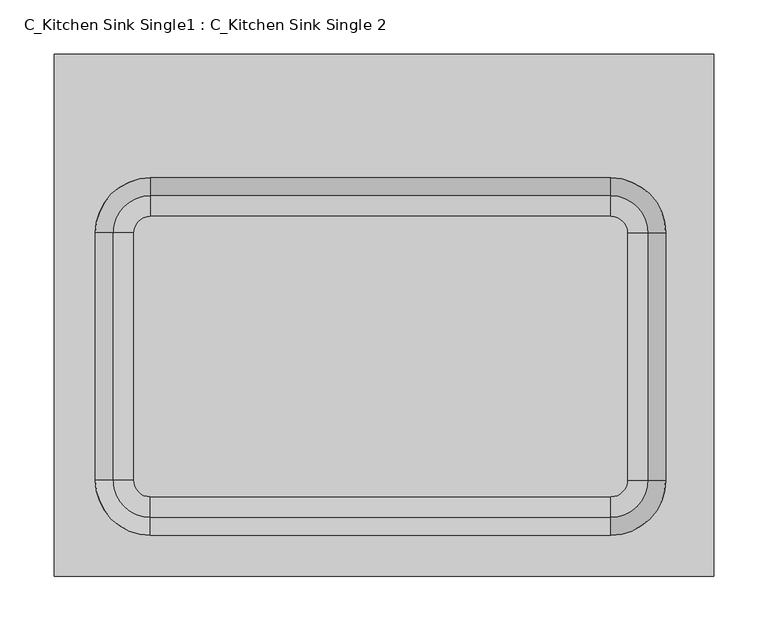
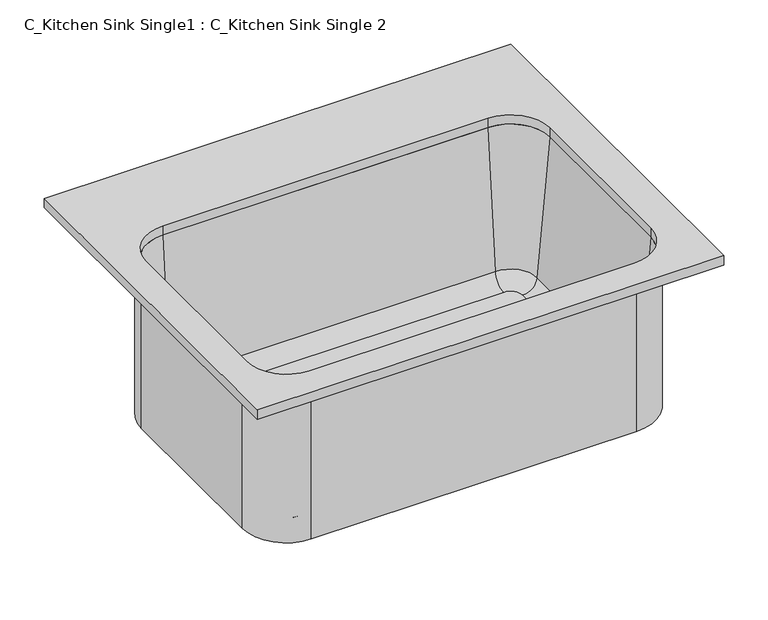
"""IFC4 building model written with IfcOpenShell, lengths in millimetres: flow terminal geometry, C_Kitchen Sink Single1 : C_Kitchen Sink Single 2."""

from ifc_helpers import new_model, si_unit, point, frame, frame_2d, origin, origin_with_axes, place, context, project, spatial, polyline, circle_curve, ellipse_curve, trimmed, segment, composite_curve, outline, extrude, source, transform, mapped, element, save
from ifc_brep_helpers import plane_surface, cylinder_surface, revolved_surface, advanced_brep


def c_kitchen_sink_single1_c_kitchen_sink_single_2_c5aafde7(model_context):
    return source(origin(), model_context, "Body", "SolidModel", [
        advanced_brep(
        [(24.6276588, 78.5454011, -206.375), (9.3392406, 93.8338193, -206.375), (-416.1107594, 93.8338193, -206.375), (-431.3991776, 78.5454011, -206.375), (-431.3991776, -150.0545989, -206.375), (-416.1107594, -165.3430171, -206.375), (9.3392406, -165.3430171, -206.375), (24.6276588, -150.0545989, -206.375), (-473.2607594, 78.5454011, -215.9), (-416.1107594, 135.6954011, -215.9), (9.3392406, 135.6954011, -215.9), (66.4892406, 78.5454011, -215.9), (66.4892406, -150.0545989, -215.9), (9.3392406, -207.2045989, -215.9), (-416.1107594, -207.2045989, -215.9), (-473.2607594, -150.0545989, -215.9), (9.3392406, 135.6954011, 0.0), (66.4892406, 78.5454011, 0.0), (43.6051678, 78.5454011, -188.9853169), (9.3392406, 112.8113283, -188.9853169), (60.1392406, 78.5454011, 0.0), (9.3392406, 129.3454011, 0.0), (66.4892406, -150.0545989, 0.0), (43.6051678, -150.0545989, -188.9853169), (60.1392406, -150.0545989, 0.0), (9.3392406, -207.2045989, 0.0), (9.3392406, -184.3205261, -188.9853169), (9.3392406, -200.8545989, 0.0), (-416.1107594, -207.2045989, 0.0), (-416.1107594, -184.3205261, -188.9853169), (-416.1107594, -200.8545989, 0.0), (-473.2607594, -150.0545989, 0.0), (-450.3766866, -150.0545989, -188.9853169), (-466.9107594, -150.0545989, 0.0), (-473.2607594, 78.5454011, 0.0), (-450.3766866, 78.5454011, -188.9853169), (-466.9107594, 78.5454011, 0.0), (-416.1107594, 135.6954011, 0.0), (-416.1107594, 112.8113283, -188.9853169), (-416.1107594, 129.3454011, 0.0)],
        [
            (0, 1, circle_curve(frame((9.3392406, 78.5454011, -206.375), z_axis=(0.0, 0.0, 1.0), x_axis=(0.0, 1.0, 0.0)), 15.2884182)),
            (1, 2),
            (2, 3, circle_curve(frame((-416.1107594, 78.5454011, -206.375), z_axis=(0.0, 0.0, 1.0), x_axis=(-1.0, 0.0, 0.0)), 15.2884182)),
            (3, 4),
            (4, 5, circle_curve(frame((-416.1107594, -150.0545989, -206.375), z_axis=(0.0, 0.0, 1.0), x_axis=(0.0, -1.0, 0.0)), 15.2884182)),
            (5, 6),
            (6, 7, circle_curve(frame((9.3392406, -150.0545989, -206.375), z_axis=(0.0, 0.0, 1.0), x_axis=(1.0, 0.0, 0.0)), 15.2884182)),
            (7, 0),
            (8, 9, circle_curve(frame((-416.1107594, 78.5454011, -215.9), z_axis=(0.0, 0.0, -1.0), x_axis=(-1.0, 0.0, 0.0)), 57.15)),
            (9, 10),
            (10, 11, circle_curve(frame((9.3392406, 78.5454011, -215.9), z_axis=(0.0, 0.0, -1.0), x_axis=(0.0, 1.0, 0.0)), 57.15)),
            (11, 12),
            (12, 13, circle_curve(frame((9.3392406, -150.0545989, -215.9), z_axis=(0.0, 0.0, -1.0), x_axis=(1.0, 0.0, 0.0)), 57.15)),
            (13, 14),
            (14, 15, circle_curve(frame((-416.1107594, -150.0545989, -215.9), z_axis=(0.0, 0.0, -1.0), x_axis=(0.0, -1.0, 0.0)), 57.15)),
            (15, 8),
            (10, 16),
            (16, 17, circle_curve(frame((9.3392406, 78.5454011, 0.0), z_axis=(0.0, 0.0, -1.0), x_axis=(0.0, 1.0, 0.0)), 57.15)),
            (17, 11),
            (0, 18, circle_curve(frame((24.6276588, 78.5454011, -187.325), z_axis=(0.0, -1.0, 0.0), x_axis=(1.0, 0.0, 0.0)), 19.05)),
            (18, 19, circle_curve(frame((9.3392406, 78.5454011, -188.9853169), z_axis=(0.0, 0.0, 1.0), x_axis=(0.0, 1.0, 0.0)), 34.2659272)),
            (19, 1, circle_curve(frame((9.3392406, 93.8338193, -187.325), z_axis=(-1.0, 0.0, 0.0), x_axis=(0.0, 1.0, 0.0)), 19.05)),
            (18, 20),
            (20, 21, circle_curve(frame((9.3392406, 78.5454011, 0.0), z_axis=(0.0, 0.0, 1.0), x_axis=(0.0, 1.0, 0.0)), 50.8)),
            (21, 19),
            (16, 21),
            (20, 17),
            (17, 22),
            (22, 12),
            (7, 23, circle_curve(frame((24.6276588, -150.0545989, -187.325), z_axis=(0.0, -1.0, 0.0), x_axis=(1.0, 0.0, 0.0)), 19.05)),
            (23, 18),
            (23, 24),
            (24, 20),
            (24, 22),
            (22, 25, circle_curve(frame((9.3392406, -150.0545989, 0.0), z_axis=(0.0, 0.0, -1.0), x_axis=(1.0, 0.0, 0.0)), 57.15)),
            (25, 13),
            (6, 26, circle_curve(frame((9.3392406, -165.3430171, -187.325), z_axis=(-1.0, 0.0, 0.0), x_axis=(0.0, -1.0, 0.0)), 19.05)),
            (26, 23, circle_curve(frame((9.3392406, -150.0545989, -188.9853169), z_axis=(0.0, 0.0, 1.0), x_axis=(1.0, 0.0, 0.0)), 34.2659272)),
            (26, 27),
            (27, 24, circle_curve(frame((9.3392406, -150.0545989, 0.0), z_axis=(0.0, 0.0, 1.0), x_axis=(1.0, 0.0, 0.0)), 50.8)),
            (27, 25),
            (25, 28),
            (28, 14),
            (5, 29, circle_curve(frame((-416.1107594, -165.3430171, -187.325), z_axis=(-1.0, 0.0, 0.0), x_axis=(0.0, -1.0, 0.0)), 19.05)),
            (29, 26),
            (29, 30),
            (30, 27),
            (30, 28),
            (28, 31, circle_curve(frame((-416.1107594, -150.0545989, 0.0), z_axis=(0.0, 0.0, -1.0), x_axis=(0.0, -1.0, 0.0)), 57.15)),
            (31, 15),
            (4, 32, circle_curve(frame((-431.3991776, -150.0545989, -187.325), z_axis=(0.0, 1.0, 0.0), x_axis=(-1.0, 0.0, 0.0)), 19.05)),
            (32, 29, circle_curve(frame((-416.1107594, -150.0545989, -188.9853169), z_axis=(0.0, 0.0, 1.0), x_axis=(0.0, -1.0, 0.0)), 34.2659272)),
            (32, 33),
            (33, 30, circle_curve(frame((-416.1107594, -150.0545989, 0.0), z_axis=(0.0, 0.0, 1.0), x_axis=(0.0, -1.0, 0.0)), 50.8)),
            (33, 31),
            (31, 34),
            (34, 8),
            (3, 35, circle_curve(frame((-431.3991776, 78.5454011, -187.325), z_axis=(0.0, 1.0, 0.0), x_axis=(-1.0, 0.0, 0.0)), 19.05)),
            (35, 32),
            (35, 36),
            (36, 33),
            (36, 34),
            (34, 37, circle_curve(frame((-416.1107594, 78.5454011, 0.0), z_axis=(0.0, 0.0, -1.0), x_axis=(-1.0, 0.0, 0.0)), 57.15)),
            (37, 9),
            (2, 38, circle_curve(frame((-416.1107594, 93.8338193, -187.325), z_axis=(1.0, 0.0, 0.0), x_axis=(0.0, 1.0, 0.0)), 19.05)),
            (38, 35, circle_curve(frame((-416.1107594, 78.5454011, -188.9853169), z_axis=(0.0, 0.0, 1.0), x_axis=(-1.0, 0.0, 0.0)), 34.2659272)),
            (38, 39),
            (39, 36, circle_curve(frame((-416.1107594, 78.5454011, 0.0), z_axis=(0.0, 0.0, 1.0), x_axis=(-1.0, 0.0, 0.0)), 50.8)),
            (39, 37),
            (37, 16),
            (19, 38),
            (21, 39),
        ],
        [
            plane_surface(frame((-416.1107594, 91.2454011, -206.375), z_axis=(0.0, 0.0, 1.0), x_axis=(-1.0, 0.0, 0.0))),
            plane_surface(frame((-416.1107594, 91.2454011, -215.9), z_axis=(0.0, 0.0, -1.0), x_axis=(1.0, 0.0, 0.0))),
            cylinder_surface(frame((9.3392406, 78.5454011, 0.0), z_axis=(0.0, 0.0, -1.0), x_axis=(0.0, 1.0, 0.0)), 57.15),
            revolved_surface(trimmed(ellipse_curve(frame((9.3392406, 93.8338193, -187.325), z_axis=(1.0, 0.0, 0.0), x_axis=(0.0, 1.0, 0.0)), 19.05, 19.05), [point((9.3392406, 93.8338193, -206.375))], [point((9.3392406, 112.8113283, -188.9853169))], True, "CARTESIAN"), (9.3392406, 78.5454011, 0.0), (0.0, 0.0, -1.0)),
            revolved_surface(polyline([(9.3392406, 112.8113283, -188.9853169), (9.3392406, 129.3454011, 0.0)]), (9.3392406, 78.5454011, 0.0), (0.0, 0.0, -1.0)),
            plane_surface(frame((9.3392406, 78.5454011, 0.0), z_axis=(0.0, 0.0, 1.0), x_axis=(0.0, 1.0, 0.0))),
            plane_surface(frame((66.4892406, 78.5454011, 0.0), z_axis=(1.0, 0.0, 0.0), x_axis=(0.0, -1.0, 0.0))),
            revolved_surface(polyline([(43.6776588, -150.05459890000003, -187.325), (43.6776588, 78.5454011, -187.325)]), (24.6276588, 78.5454011, -187.325), (0.0, -1.0, 0.0)),
            plane_surface(frame((43.6051678, 78.5454011, -188.9853169), z_axis=(-0.996194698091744, 0.0, 0.08715574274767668), x_axis=(0.0, -1.0, 0.0))),
            plane_surface(frame((60.1392406, 78.5454011, 0.0), z_axis=(0.0, 0.0, 1.0), x_axis=(0.0, -1.0, 0.0))),
            cylinder_surface(frame((9.3392406, -150.0545989, 0.0), z_axis=(0.0, 0.0, -1.0), x_axis=(1.0, 0.0, 0.0)), 57.15),
            revolved_surface(trimmed(ellipse_curve(frame((24.6276588, -150.0545989, -187.325), z_axis=(0.0, -1.0, 0.0), x_axis=(1.0, 0.0, 0.0)), 19.05, 19.05), [point((24.6276588, -150.0545989, -206.375))], [point((43.6051678, -150.0545989, -188.9853169))], True, "CARTESIAN"), (9.3392406, -150.0545989, 0.0), (0.0, 0.0, -1.0)),
            revolved_surface(polyline([(43.6051678, -150.0545989, -188.9853169), (60.1392406, -150.0545989, 0.0)]), (9.3392406, -150.0545989, 0.0), (0.0, 0.0, -1.0)),
            plane_surface(frame((9.3392406, -150.0545989, 0.0), z_axis=(0.0, 0.0, 1.0), x_axis=(1.0, 0.0, 0.0))),
            plane_surface(frame((9.3392406, -207.2045989, 0.0), z_axis=(0.0, -1.0, 0.0), x_axis=(-1.0, 0.0, 0.0))),
            revolved_surface(polyline([(-416.1107594, -184.3930171, -187.325), (9.3392406, -184.3930171, -187.325)]), (9.3392406, -165.3430171, -187.325), (-1.0, 0.0, 0.0)),
            plane_surface(frame((9.3392406, -184.3205261, -188.9853169), z_axis=(0.0, 0.996194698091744, 0.08715574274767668), x_axis=(-1.0, 0.0, 0.0))),
            plane_surface(frame((9.3392406, -200.8545989, 0.0), z_axis=(0.0, 0.0, 1.0), x_axis=(-1.0, 0.0, 0.0))),
            cylinder_surface(frame((-416.1107594, -150.0545989, 0.0), z_axis=(0.0, 0.0, -1.0), x_axis=(0.0, -1.0, 0.0)), 57.15),
            revolved_surface(trimmed(ellipse_curve(frame((-416.1107594, -165.3430171, -187.325), z_axis=(-1.0, 0.0, 0.0), x_axis=(0.0, -1.0, 0.0)), 19.05, 19.05), [point((-416.1107594, -165.3430171, -206.375))], [point((-416.1107594, -184.3205261, -188.9853169))], True, "CARTESIAN"), (-416.1107594, -150.0545989, 0.0), (0.0, 0.0, -1.0)),
            revolved_surface(polyline([(-416.1107594, -184.3205261, -188.9853169), (-416.1107594, -200.8545989, 0.0)]), (-416.1107594, -150.0545989, 0.0), (0.0, 0.0, -1.0)),
            plane_surface(frame((-416.1107594, -150.0545989, 0.0), z_axis=(0.0, 0.0, 1.0), x_axis=(0.0, -1.0, 0.0))),
            plane_surface(frame((-473.2607594, -150.0545989, 0.0), z_axis=(-1.0, 0.0, 0.0), x_axis=(0.0, 1.0, 0.0))),
            revolved_surface(polyline([(-450.4491776, 78.54540110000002, -187.325), (-450.4491776, -150.0545989, -187.325)]), (-431.3991776, -150.0545989, -187.325), (0.0, 1.0, 0.0)),
            plane_surface(frame((-450.3766866, -150.0545989, -188.9853169), z_axis=(0.996194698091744, 0.0, 0.08715574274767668), x_axis=(0.0, 1.0, 0.0))),
            plane_surface(frame((-466.9107594, -150.0545989, 0.0), z_axis=(0.0, 0.0, 1.0), x_axis=(0.0, 1.0, 0.0))),
            cylinder_surface(frame((-416.1107594, 78.5454011, 0.0), z_axis=(0.0, 0.0, -1.0), x_axis=(-1.0, 0.0, 0.0)), 57.15),
            revolved_surface(trimmed(ellipse_curve(frame((-431.3991776, 78.5454011, -187.325), z_axis=(0.0, 1.0, 0.0), x_axis=(-1.0, 0.0, 0.0)), 19.05, 19.05), [point((-431.3991776, 78.5454011, -206.375))], [point((-450.3766866, 78.5454011, -188.9853169))], True, "CARTESIAN"), (-416.1107594, 78.5454011, 0.0), (0.0, 0.0, -1.0)),
            revolved_surface(polyline([(-450.3766866, 78.5454011, -188.9853169), (-466.9107594, 78.5454011, 0.0)]), (-416.1107594, 78.5454011, 0.0), (0.0, 0.0, -1.0)),
            plane_surface(frame((-416.1107594, 78.5454011, 0.0), z_axis=(0.0, 0.0, 1.0), x_axis=(-1.0, 0.0, 0.0))),
            plane_surface(frame((-416.1107594, 135.6954011, 0.0), z_axis=(0.0, 1.0, 0.0), x_axis=(1.0, 0.0, 0.0))),
            revolved_surface(polyline([(9.339240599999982, 112.8838193, -187.325), (-416.1107594, 112.8838193, -187.325)]), (-416.1107594, 93.8338193, -187.325), (1.0, 0.0, 0.0)),
            plane_surface(frame((-416.1107594, 112.8113283, -188.9853169), z_axis=(0.0, -0.996194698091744, 0.08715574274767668), x_axis=(1.0, 0.0, 0.0))),
            plane_surface(frame((-416.1107594, 129.3454011, 0.0), z_axis=(0.0, 0.0, 1.0), x_axis=(1.0, 0.0, 0.0))),
        ],
        [
            (0, [[1, 2, 3, 4, 5, 6, 7, 8]]),
            (1, [[9, 10, 11, 12, 13, 14, 15, 16]]),
            (2, [[-11, 17, 18, 19]]),
            (3, [[-1, 20, 21, 22]]),
            (4, [[-21, 23, 24, 25]]),
            (5, [[-18, 26, -24, 27]]),
            (6, [[-19, 28, 29, -12]]),
            (7, [[-20, -8, 30, 31]]),
            (8, [[-23, -31, 32, 33]]),
            (9, [[-27, -33, 34, -28]]),
            (10, [[-29, 35, 36, -13]]),
            (11, [[-30, -7, 37, 38]]),
            (12, [[-32, -38, 39, 40]]),
            (13, [[-34, -40, 41, -35]]),
            (14, [[-36, 42, 43, -14]]),
            (15, [[-37, -6, 44, 45]]),
            (16, [[-39, -45, 46, 47]]),
            (17, [[-41, -47, 48, -42]]),
            (18, [[-43, 49, 50, -15]]),
            (19, [[-44, -5, 51, 52]]),
            (20, [[-46, -52, 53, 54]]),
            (21, [[-48, -54, 55, -49]]),
            (22, [[-50, 56, 57, -16]]),
            (23, [[-51, -4, 58, 59]]),
            (24, [[-53, -59, 60, 61]]),
            (25, [[-55, -61, 62, -56]]),
            (26, [[-57, 63, 64, -9]]),
            (27, [[-58, -3, 65, 66]]),
            (28, [[-60, -66, 67, 68]]),
            (29, [[-62, -68, 69, -63]]),
            (30, [[-17, -10, -64, 70]]),
            (31, [[-22, 71, -65, -2]]),
            (32, [[-25, 72, -67, -71]]),
            (33, [[-26, -70, -69, -72]]),
        ],
    ),
        extrude(outline(polyline([(104.5892406, 243.6454011), (104.5892406, -238.9545989), (-505.0107594, -238.9545989), (-505.0107594, 243.6454011), (104.5892406, 243.6454011)]), holes=[composite_curve([segment(polyline([(9.3392406, 129.3454011), (-416.1107594, 129.3454011)]), True, "CONTINUOUS"), segment(trimmed(circle_curve(frame_2d((-416.1107594, 78.5454011)), 50.8), [point((-416.1107594, 129.3454011))], [point((-466.9107594, 78.5454011))], True, "CARTESIAN"), True, "CONTINUOUS"), segment(polyline([(-466.9107594, 78.5454011), (-466.9107594, -150.0545989)]), True, "CONTINUOUS"), segment(trimmed(circle_curve(frame_2d((-416.1107594, -150.0545989)), 50.8), [point((-466.9107594, -150.0545989))], [point((-416.1107594, -200.8545989))], True, "CARTESIAN"), True, "CONTINUOUS"), segment(polyline([(-416.1107594, -200.8545989), (9.3392406, -200.8545989)]), True, "CONTINUOUS"), segment(trimmed(circle_curve(frame_2d((9.3392406, -150.0545989)), 50.8), [point((9.3392406, -200.8545989))], [point((60.1392406, -150.0545989))], True, "CARTESIAN"), True, "CONTINUOUS"), segment(polyline([(60.1392406, -150.0545989), (60.1392406, 78.5454011)]), True, "CONTINUOUS"), segment(trimmed(circle_curve(frame_2d((9.3392406, 78.5454011)), 50.8), [point((60.1392406, 78.5454011))], [point((9.3392406, 129.3454011))], True, "CARTESIAN"), True, "CONTINUOUS")], self_intersect=False)]), origin_with_axes(), (0.0, 0.0, 1.0), 12.7),
    ])


if __name__ == "__main__":
    model = new_model("IFC4")
    model_context = context("Model", 3, world=origin())
    ifc_project = project(units=[si_unit("LENGTHUNIT", "METRE", prefix="MILLI")], contexts=[model_context])
    site = spatial("IfcSite", under=ifc_project)
    building = spatial("IfcBuilding", under=site)
    placement = place(None, origin())
    c_kitchen_sink_single1_c_kitchen_sink_single_2_shape = c_kitchen_sink_single1_c_kitchen_sink_single_2_c5aafde7(model_context)
    element("IfcFlowTerminal", 1, ObjectType="C_Kitchen Sink Single1 : C_Kitchen Sink Single 2", at=placement, inside=building, context=model_context, shape_type="MappedRepresentation", body=[
        mapped(c_kitchen_sink_single1_c_kitchen_sink_single_2_shape, transform((0.0, 0.0, 0.0), x_axis=(1.0, 0.0, 0.0), y_axis=(0.0, 1.0, 0.0), z_axis=(0.0, 0.0, 1.0))),
    ])
    save(model, "model.ifc")
